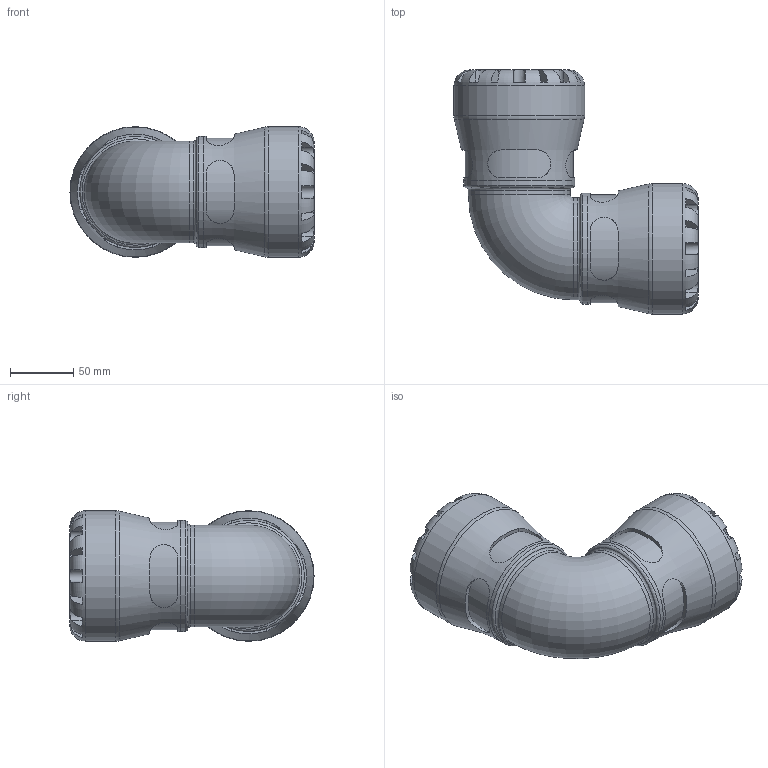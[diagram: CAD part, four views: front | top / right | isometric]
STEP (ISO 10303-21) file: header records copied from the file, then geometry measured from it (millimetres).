
FILE_DESCRIPTION(/* description */ ('PLASSON 90° ELBOW 63X63 SERIES 1'),/* implementation_level */ '2;1');
FILE_NAME(/* name */ 'C:\Dropbox\KIMPROJECTS-Inventor\99-16-3568-Processing\1005\100500063_190400063.ipt.stp',/* time_stamp */ '2017-01-22T11:44:25+02:00',/* author */ ('KIM'),/* organization */ (''),/* preprocessor_version */ 'ST-DEVELOPER v15.6',/* originating_system */ 'Autodesk Inventor 2015',/* authorisation */ '');
FILE_SCHEMA (('AUTOMOTIVE_DESIGN { 1 0 10303 214 3 1 1 }'));
Length unit declared in the file: millimetre
Products named in the file (1): 100500063_190400063
Bounding box: 192.5 x 192.5 x 103 mm (x, y, z)
Volume: 966195.1 mm3; surface area: 143314.4 mm2
Topology: 1 solids, 1 shells, 196 faces, 497 edges, 311 vertices
Faces by surface type: plane 116, cylinder 66, torus 12, cone 2
Full cylindrical faces by diameter (mm): 52.5 x2, 63 x2, 80.34 x2, 87.55 x2, 103 x2
Entity records: 7560 total; most frequent: CARTESIAN_POINT 2929, ORIENTED_EDGE 916, DIRECTION 894, EDGE_CURVE 458, AXIS2_PLACEMENT_3D 367, VERTEX_POINT 298, EDGE_LOOP 232, STYLED_ITEM 197
